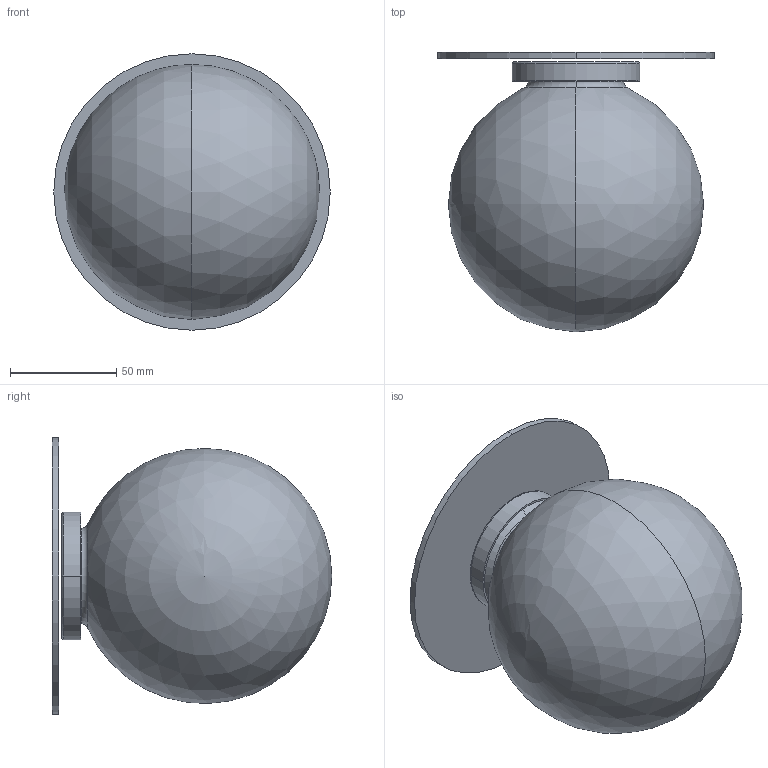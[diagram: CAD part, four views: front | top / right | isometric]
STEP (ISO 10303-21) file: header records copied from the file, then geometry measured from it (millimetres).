
FILE_DESCRIPTION (( 'STEP AP203' ), '1' );
FILE_NAME ('Mezzo Bulkhead_A.STEP', '2016-04-05T10:27:18', ( '' ), ( '' ), 'SwSTEP 2.0', 'SolidWorks 2016', '' );
FILE_SCHEMA (( 'CONFIG_CONTROL_DESIGN' ));
Length unit declared in the file: millimetre
Products named in the file (4): Mezzo Bulkhead_A; Back plate_For US; GLASS BALL; SLIM SPINNING (9MM)2
Assembly tree (3 placements, depth 2):
  Mezzo Bulkhead_A
    SLIM SPINNING (9MM)2
    GLASS BALL
    Back plate_For US
Bounding box: 130 x 131.5 x 130 mm (x, y, z)
Volume: 130585.2 mm3; surface area: 124276.7 mm2
Topology: 3 solids, 3 shells, 56 faces, 136 edges, 84 vertices
Faces by surface type: cylinder 26, torus 12, cone 8, plane 6, sphere 4
Entity records: 2052 total; most frequent: DIRECTION 342, CARTESIAN_POINT 266, ORIENTED_EDGE 252, AXIS2_PLACEMENT_3D 154, EDGE_CURVE 126, CIRCLE 92, EDGE_LOOP 78, VERTEX_POINT 78
